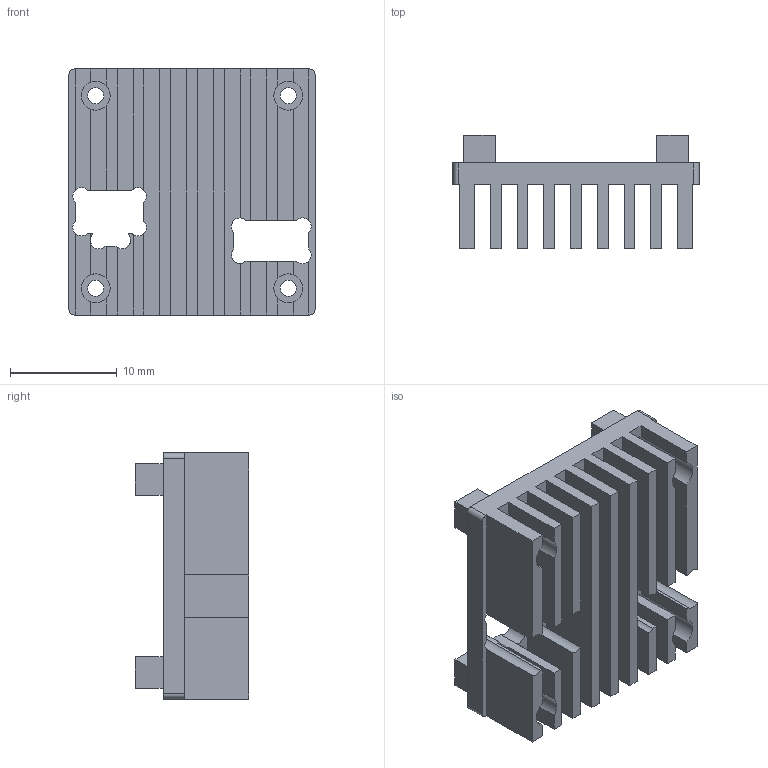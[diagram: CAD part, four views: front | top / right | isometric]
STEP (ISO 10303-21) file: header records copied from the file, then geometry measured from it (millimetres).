
FILE_DESCRIPTION(('FreeCAD Model'),'2;1');
FILE_NAME('C:/Users/Public/Documents/Altium/Projects/GAZET_IR_LED_DRIVER/data/3D_visualization/Open_Kai_files/option2_heatsink_rev2.step', '2021-04-06T13:58:00',('Author'),(''), 'Open CASCADE STEP processor 7.3','FreeCAD','Unknown');
FILE_SCHEMA(('AUTOMOTIVE_DESIGN { 1 0 10303 214 1 1 1 1 }'));
Length unit declared in the file: millimetre
Products named in the file (1): inductor_cut_option2
Bounding box: 23 x 10.6 x 23 mm (x, y, z)
Volume: 2043.5 mm3; surface area: 3883 mm2
Topology: 1 solids, 1 shells, 157 faces, 456 edges, 304 vertices
Faces by surface type: plane 119, cylinder 38
Entity records: 12224 total; most frequent: CARTESIAN_POINT 2186, DIRECTION 1623, LINE 1030, VECTOR 1030, ORIENTED_EDGE 912, PCURVE 912, DEFINITIONAL_REPRESENTATION 912, EDGE_CURVE 456
